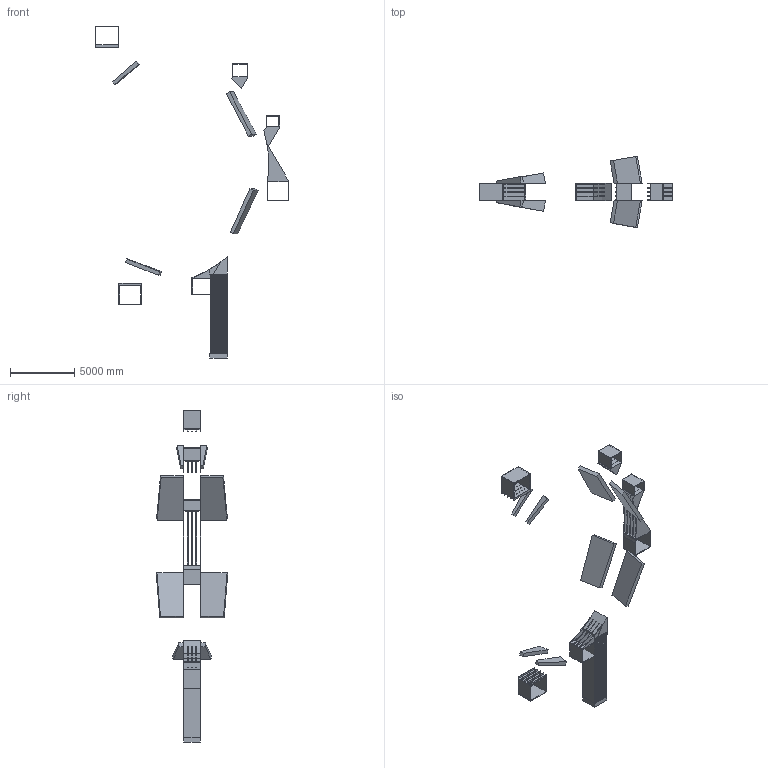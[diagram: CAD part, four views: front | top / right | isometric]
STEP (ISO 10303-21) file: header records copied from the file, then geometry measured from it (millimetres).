
FILE_DESCRIPTION(('FreeCAD Model'),'2;1');
FILE_NAME('Open CASCADE Shape Model','2026-10-11T08:37:00',('Bluemira'), ('Bluemira'),'Open CASCADE STEP processor 7.8','FreeCAD','Unknown');
FILE_SCHEMA(('AP242_MANAGED_MODEL_BASED_3D_ENGINEERING_MIM_LF. {1 0 10303 442 1 1 4 }'));
Length unit declared in the file: metre
Products named in the file (16): Unnamed; TF_OIS_left_1_1; TF_OIS_right_1_1; TF_OIS_left_2_1; TF_OIS_right_2_1; TF_OIS_left_3_1; TF_OIS_right_3_1; TF_OIS_left_4_1; TF_OIS_right_4_1; PFCoilSupport_0_1; PFCoilSupport_1_1; PFCoilSupport_2_1; PFCoilSupport_3_1; PFCoilSupport_4_1; PFCoilSupport_5_1; ITER_like_gravity_support_1
Assembly tree (15 placements, depth 2):
  Unnamed
    TF_OIS_left_1_1
    TF_OIS_right_1_1
    TF_OIS_left_2_1
    TF_OIS_right_2_1
    TF_OIS_left_3_1
    TF_OIS_right_3_1
    TF_OIS_left_4_1
    TF_OIS_right_4_1
    PFCoilSupport_0_1
    PFCoilSupport_1_1
    PFCoilSupport_2_1
    PFCoilSupport_3_1
    PFCoilSupport_4_1
    PFCoilSupport_5_1
    ITER_like_gravity_support_1
Bounding box: 15004.3 x 5534.55 x 25745.09 mm (x, y, z)
Volume: 22356813906.3 mm3; surface area: 433100574.1 mm2
Topology: 15 solids, 15 shells, 309 faces, 761 edges, 462 vertices
Faces by surface type: plane 291, extrusion 18
Entity records: 21942 total; most frequent: CARTESIAN_POINT 7060, DIRECTION 2413, VECTOR 1799, LINE 1781, ORIENTED_EDGE 1522, PCURVE 1522, DEFINITIONAL_REPRESENTATION 1522, EDGE_CURVE 761
